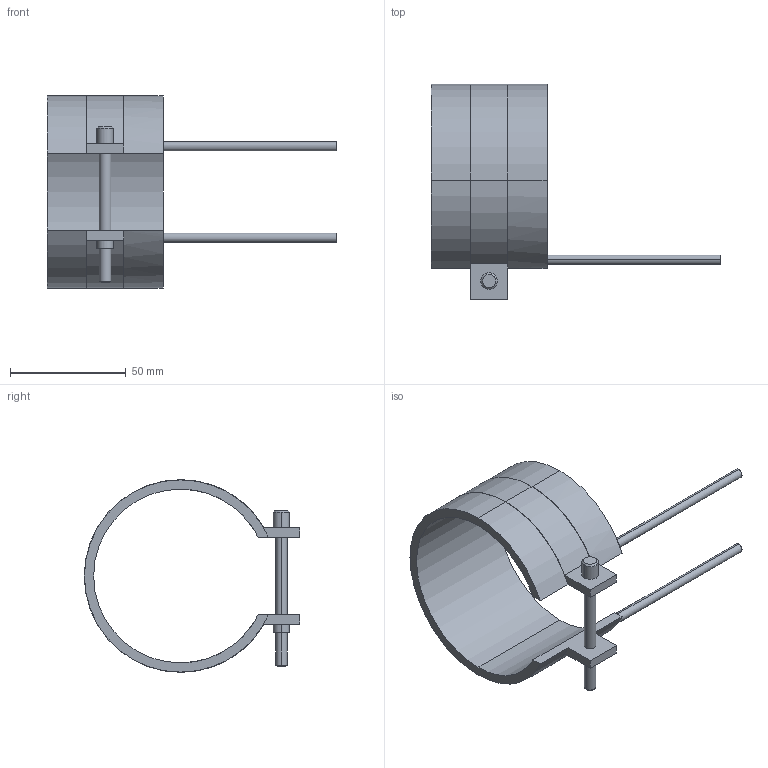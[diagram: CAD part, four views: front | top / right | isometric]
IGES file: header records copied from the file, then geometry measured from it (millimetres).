
Start section: START RECORD GO HERE.
Global section: file name: 14075050.igs; native system: DASSAULT SYSTEMES CATIA V5 R20 - www.3ds.com; preprocessor: CATIA Version 5 Release 20 ; author: Utente; organization: NB04-ASUS; date: 20210403.104309; units: millimetre
Bounding box: 125 x 93.1 x 83.2 mm (x, y, z)
Surface area: 27543.7 mm2 (no closed solid volume)
Topology: 0 solids, 0 shells, 45 faces, 232 edges, 232 vertices
Faces by surface type: revolution 28, plane 17
